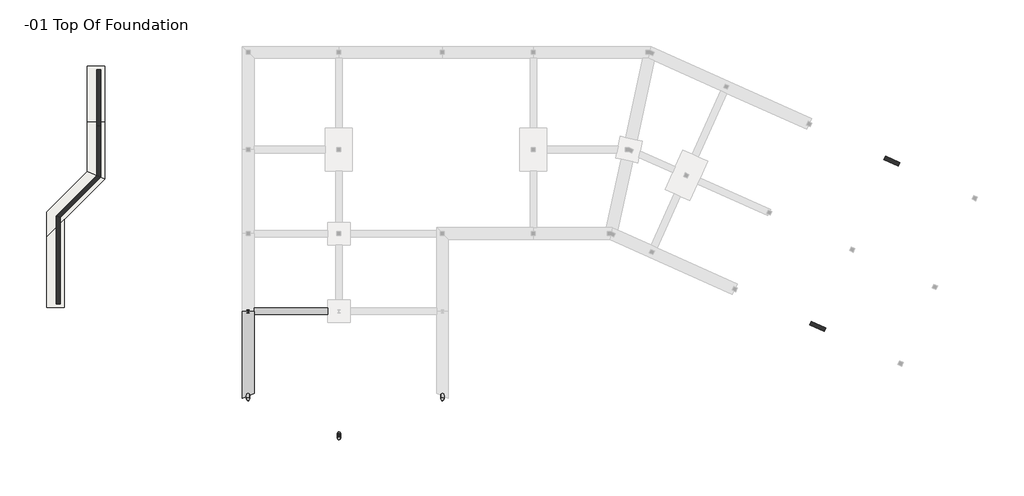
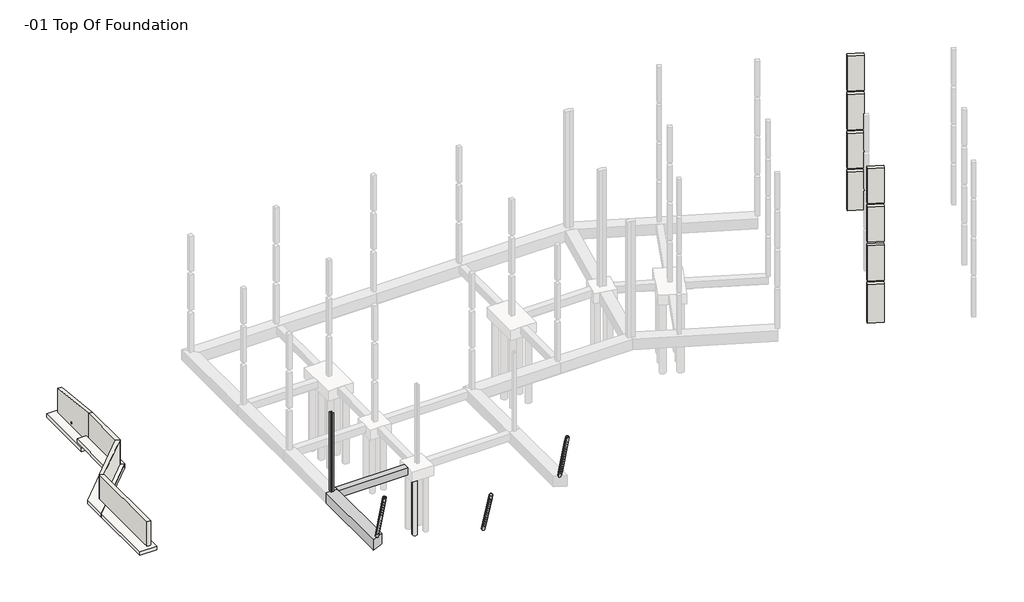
# One storey, part 1 of 4: 6 walls, 4 columns, 4 footings, 2 beams, 1 slab.
"""IFC4 building model written with IfcOpenShell, lengths in millimetres."""

from ifc_helpers import new_model, si_unit, point, frame, frame_2d, origin, place, context, project, spatial, polyline, circle_curve, ellipse_curve, trimmed, segment, composite_curve, outline, extrude, faceted_brep, transform, mapped, element, save
from ifc_brep_helpers import plane_surface, cylinder_surface, revolved_surface, advanced_brep
from components import w_shapes_column_w10x33_60aa4128

model = new_model("IFC4")

# Units and contexts
model_context = context("Model", 3, world=origin())
ifc_project = project(units=[si_unit("LENGTHUNIT", "METRE", prefix="MILLI")], contexts=[model_context])

# Site, building, storey
site = spatial("IfcSite", under=ifc_project)
building = spatial("IfcBuilding", under=site)
storey = spatial("IfcBuildingStorey", under=building, Name="-01 Top Of Foundation", Elevation=-304.8)

# Beams
placement = place(None, origin())
element("IfcBeam", 1, ObjectType="Ring Beam : 12 x 24", at=placement, inside=storey, context=model_context, shape_type="Brep", body=[
    faceted_brep([(457.2, -19748.5, -304.8), (457.2, -20002.5, -304.8), (457.2, -20256.5, -304.8), (6146.8, -20256.5, -304.8), (6146.8, -19748.5, -304.8), (457.2, -19748.5, -889.0), (6146.8, -19748.5, -889.0), (457.2, -19773.9, -914.4), (6146.8, -19773.9, -914.4), (457.2, -20231.1, -914.4), (6146.8, -20231.1, -914.4), (457.2, -20256.5, -889.0), (6146.8, -20256.5, -889.0)], [[[0, 1, 2, 3, 4]], [[5, 0, 4, 6]], [[7, 5, 6, 8]], [[9, 7, 8, 10]], [[11, 9, 10, 12]], [[2, 11, 12, 3]], [[9, 11, 2, 1, 0, 5, 7]], [[4, 3, 12, 10, 8, 6]]]),
])
element("IfcBeam", 2, ObjectType="Ring Beam : 16 x 32", at=placement, inside=storey, context=model_context, shape_type="Brep", body=[
    faceted_brep([(-457.2, -26723.3402351, -304.8), (457.2, -26332.3874204, -304.8), (457.2, -20256.5, -304.8), (457.2, -20002.5, -304.8), (-457.2, -20002.5, -304.8), (-457.2, -26723.3402351, -1193.8), (-457.2, -20002.5, -1193.8), (-431.8, -26712.4804347, -1219.2), (-431.8, -20002.5, -1219.2), (431.8, -26343.2472208, -1219.2), (431.8, -20002.5, -1219.2), (457.2, -26332.3874204, -1193.8), (457.2, -20002.5, -1193.8)], [[[0, 1, 2, 3, 4]], [[5, 0, 4, 6]], [[7, 5, 6, 8]], [[9, 7, 8, 10]], [[11, 9, 10, 12]], [[1, 11, 12, 3, 2]], [[1, 0, 5, 7, 9, 11]], [[3, 12, 10, 8, 6, 4]]]),
])

# Columns
element("IfcColumn", 3, ObjectType="HSS Round-Column : HSS10X.500", at=placement, inside=storey, context=model_context, shape_type="AdvancedBrep", body=[
    advanced_brep(
    [(6883.4, -29416.3085227, -359.2102448), (7137.4, -29416.3085227, -359.2102448), (6896.1, -29416.3085227, -359.2102448), (7124.7, -29416.3085227, -359.2102448), (6883.4, -30549.160265, 3300.5302448), (7137.4, -30549.160265, 3300.5302448), (6896.1, -30549.160265, 3300.5302448), (7124.7, -30549.160265, 3300.5302448)],
    [
        (0, 1, circle_curve(frame((7010.4, -29416.3085227, -359.2102448), z_axis=(0.0, 0.29570157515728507, -0.9552803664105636), x_axis=(1.0, 0.0, 0.0)), 127.0)),
        (1, 0, circle_curve(frame((7010.4, -29416.3085227, -359.2102448), z_axis=(0.0, 0.29570157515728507, -0.9552803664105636), x_axis=(1.0, 0.0, 0.0)), 127.0)),
        (2, 3, circle_curve(frame((7010.4, -29416.3085227, -359.2102448), z_axis=(0.0, -0.29570157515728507, 0.9552803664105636), x_axis=(1.0, 0.0, 0.0)), 114.3)),
        (3, 2, circle_curve(frame((7010.4, -29416.3085227, -359.2102448), z_axis=(0.0, -0.29570157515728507, 0.9552803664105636), x_axis=(1.0, 0.0, 0.0)), 114.3)),
        (4, 5, circle_curve(frame((7010.4, -30549.160265, 3300.5302448), z_axis=(0.0, 0.29570157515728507, -0.9552803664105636), x_axis=(1.0, 0.0, 0.0)), 127.0)),
        (5, 1),
        (0, 4),
        (5, 4, circle_curve(frame((7010.4, -30549.160265, 3300.5302448), z_axis=(0.0, 0.29570157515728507, -0.9552803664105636), x_axis=(1.0, 0.0, 0.0)), 127.0)),
        (6, 7, circle_curve(frame((7010.4, -30549.160265, 3300.5302448), z_axis=(0.0, -0.29570157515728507, 0.9552803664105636), x_axis=(1.0, 0.0, 0.0)), 114.3)),
        (7, 3),
        (2, 6),
        (7, 6, circle_curve(frame((7010.4, -30549.160265, 3300.5302448), z_axis=(0.0, -0.29570157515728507, 0.9552803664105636), x_axis=(1.0, 0.0, 0.0)), 114.3)),
    ],
    [
        plane_surface(frame((7137.4, -29416.3085227, -359.2102448), z_axis=(0.0, 0.295701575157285, -0.9552803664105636), x_axis=(0.0, -0.9552803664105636, -0.295701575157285))),
        cylinder_surface(frame((7010.4, -29416.3085227, -359.2102448), z_axis=(0.0, -0.29570157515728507, 0.9552803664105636), x_axis=(1.0, 0.0, 0.0)), 127.0),
        revolved_surface(polyline([(7124.7, -29416.308522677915, -359.21024479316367), (7124.7, -30549.160264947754, 3300.530244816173)]), (7010.4, -29527.5, 0.0), (0.0, 0.29570157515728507, -0.9552803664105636)),
        plane_surface(frame((7137.4, -30549.160265, 3300.5302448), z_axis=(0.0, -0.295701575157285, 0.9552803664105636), x_axis=(0.0, 0.9552803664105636, 0.295701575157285))),
    ],
    [
        (0, [[1, 2], [3, 4]]),
        (1, [[5, 6, -1, 7]]),
        (1, [[8, -7, -2, -6]]),
        (2, [[9, 10, -3, 11]]),
        (2, [[12, -11, -4, -10]]),
        (3, [[-8, -5], [-12, -9]]),
    ],
),
    advanced_brep(
    [(6883.4, -30549.160265, 3300.5302448), (7137.4, -30549.160265, 3300.5302448), (6896.1, -30549.160265, 3300.5302448), (7124.7, -30549.160265, 3300.5302448), (7137.4, -29527.5, 0.0), (6883.4, -29527.5, 0.0), (7124.7, -29527.5, 0.0), (6896.1, -29527.5, 0.0)],
    [
        (0, 1, circle_curve(frame((7010.4, -30549.160265, 3300.5302448), z_axis=(0.0, -0.29570157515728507, 0.9552803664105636), x_axis=(1.0, 0.0, 0.0)), 127.0)),
        (1, 0, circle_curve(frame((7010.4, -30549.160265, 3300.5302448), z_axis=(0.0, -0.29570157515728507, 0.9552803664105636), x_axis=(1.0, 0.0, 0.0)), 127.0)),
        (2, 3, circle_curve(frame((7010.4, -30549.160265, 3300.5302448), z_axis=(0.0, 0.29570157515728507, -0.9552803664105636), x_axis=(1.0, 0.0, 0.0)), 114.3)),
        (3, 2, circle_curve(frame((7010.4, -30549.160265, 3300.5302448), z_axis=(0.0, 0.29570157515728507, -0.9552803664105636), x_axis=(1.0, 0.0, 0.0)), 114.3)),
        (1, 4),
        (4, 5, ellipse_curve(frame((7010.4, -29527.5, 0.0), z_axis=(0.0, 0.0, 1.0), x_axis=(0.0, -1.0, 0.0)), 132.9452635, 127.0)),
        (5, 0),
        (5, 4, ellipse_curve(frame((7010.4, -29527.5, 0.0), z_axis=(0.0, 0.0, 1.0), x_axis=(0.0, -1.0, 0.0)), 132.9452635, 127.0)),
        (3, 6),
        (6, 7, ellipse_curve(frame((7010.4, -29527.5, 0.0), z_axis=(0.0, 0.0, -1.0), x_axis=(0.0, 1.0, 0.0)), 119.6507371, 114.3)),
        (7, 2),
        (7, 6, ellipse_curve(frame((7010.4, -29527.5, 0.0), z_axis=(0.0, 0.0, -1.0), x_axis=(0.0, 1.0, 0.0)), 119.6507371, 114.3)),
    ],
    [
        plane_surface(frame((7137.4, -30549.160265, 3300.5302448), z_axis=(0.0, -0.295701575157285, 0.9552803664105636), x_axis=(0.0, 0.9552803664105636, 0.295701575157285))),
        cylinder_surface(frame((7010.4, -29416.3085227, -359.2102448), z_axis=(0.0, -0.29570157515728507, 0.9552803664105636), x_axis=(1.0, 0.0, 0.0)), 127.0),
        revolved_surface(polyline([(7124.7, -29517.037808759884, -33.798690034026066), (7124.7, -30549.160264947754, 3300.530244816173)]), (7010.4, -29527.5, 0.0), (0.0, 0.29570157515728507, -0.9552803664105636)),
        plane_surface(frame((7010.4, -29527.5, 0.0), z_axis=(0.0, 0.0, -1.0), x_axis=(1.0, 0.0, 0.0))),
    ],
    [
        (0, [[1, 2], [3, 4]]),
        (1, [[-2, 5, 6, 7]]),
        (1, [[-1, -7, 8, -5]]),
        (2, [[-4, 9, 10, 11]]),
        (2, [[-3, -11, 12, -9]]),
        (3, [[-6, -8], [-10, -12]]),
    ],
),
    advanced_brep(
    [(7137.4, -30437.9687876, 2941.32), (7137.4, -29527.5, 0.0), (6883.4, -29527.5, 0.0), (6883.4, -30437.9687876, 2941.32), (6896.1, -29527.5, 0.0), (7124.7, -29527.5, 0.0), (7124.7, -30437.9687876, 2941.32), (6896.1, -30437.9687876, 2941.32)],
    [
        (0, 1),
        (1, 2, ellipse_curve(frame((7010.4, -29527.5, 0.0), z_axis=(0.0, 0.0, 1.0), x_axis=(0.0, -1.0, 0.0)), 132.9452635, 127.0)),
        (2, 3),
        (3, 0, ellipse_curve(frame((7010.4, -30437.9687876, 2941.32), z_axis=(0.0, 0.0, -1.0), x_axis=(0.0, -1.0, 0.0)), 132.9452635, 127.0)),
        (2, 1, ellipse_curve(frame((7010.4, -29527.5, 0.0), z_axis=(0.0, 0.0, 1.0), x_axis=(0.0, -1.0, 0.0)), 132.9452635, 127.0)),
        (0, 3, ellipse_curve(frame((7010.4, -30437.9687876, 2941.32), z_axis=(0.0, 0.0, -1.0), x_axis=(0.0, -1.0, 0.0)), 132.9452635, 127.0)),
        (4, 5, ellipse_curve(frame((7010.4, -29527.5, 0.0), z_axis=(0.0, 0.0, 1.0), x_axis=(0.0, 1.0, 0.0)), 119.6507371, 114.3)),
        (5, 4, ellipse_curve(frame((7010.4, -29527.5, 0.0), z_axis=(0.0, 0.0, 1.0), x_axis=(0.0, 1.0, 0.0)), 119.6507371, 114.3)),
        (6, 5),
        (4, 7),
        (7, 6, ellipse_curve(frame((7010.4, -30437.9687876, 2941.32), z_axis=(0.0, 0.0, 1.0), x_axis=(0.0, 1.0, 0.0)), 119.6507371, 114.3)),
        (6, 7, ellipse_curve(frame((7010.4, -30437.9687876, 2941.32), z_axis=(0.0, 0.0, 1.0), x_axis=(0.0, 1.0, 0.0)), 119.6507371, 114.3)),
    ],
    [
        cylinder_surface(frame((7010.4, -29416.3085227, -359.2102448), z_axis=(0.0, -0.29570157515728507, 0.9552803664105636), x_axis=(1.0, 0.0, 0.0)), 127.0),
        plane_surface(frame((7010.4, -29527.5, 0.0), z_axis=(0.0, 0.0, -1.0), x_axis=(1.0, 0.0, 0.0))),
        revolved_surface(polyline([(7124.7, -29517.037808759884, -33.798690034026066), (7124.7, -30448.43097885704, 2975.1186900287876)]), (7010.4, -29527.5, 0.0), (0.0, 0.29570157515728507, -0.9552803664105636)),
        plane_surface(frame((7010.4, -30441.9, 2941.32), z_axis=(0.0, 0.0, 1.0), x_axis=(-1.0, 0.0, 0.0))),
    ],
    [
        (0, [[1, 2, 3, 4]]),
        (0, [[-3, 5, -1, 6]]),
        (1, [[-2, -5], [7, 8]]),
        (2, [[9, -7, 10, 11]]),
        (2, [[-10, -8, -9, 12]]),
        (3, [[-4, -6], [-11, -12]]),
    ],
),
])
element("IfcColumn", 4, ObjectType="HSS Round-Column : HSS10X.500", at=placement, inside=storey, context=model_context, shape_type="AdvancedBrep", body=[
    advanced_brep(
    [(-127.0, -26432.3335696, -359.2102448), (127.0, -26432.3335696, -359.2102448), (-114.3, -26432.3335696, -359.2102448), (114.3, -26432.3335696, -359.2102448), (-127.0, -27542.6664304, 3712.0102448), (127.0, -27542.6664304, 3712.0102448), (-114.3, -27542.6664304, 3712.0102448), (114.3, -27542.6664304, 3712.0102448)],
    [
        (0, 1, circle_curve(frame((0.0, -26432.3335696, -359.2102448), z_axis=(0.0, 0.26311740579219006, -0.9647638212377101), x_axis=(1.0000000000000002, 0.0, 0.0)), 127.0)),
        (1, 0, circle_curve(frame((0.0, -26432.3335696, -359.2102448), z_axis=(0.0, 0.26311740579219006, -0.9647638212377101), x_axis=(1.0000000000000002, 0.0, 0.0)), 127.0)),
        (2, 3, circle_curve(frame((0.0, -26432.3335696, -359.2102448), z_axis=(0.0, -0.26311740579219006, 0.9647638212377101), x_axis=(1.0000000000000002, 0.0, 0.0)), 114.3)),
        (3, 2, circle_curve(frame((0.0, -26432.3335696, -359.2102448), z_axis=(0.0, -0.26311740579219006, 0.9647638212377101), x_axis=(1.0000000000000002, 0.0, 0.0)), 114.3)),
        (4, 5, circle_curve(frame((0.0, -27542.6664304, 3712.0102448), z_axis=(0.0, 0.26311740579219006, -0.9647638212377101), x_axis=(1.0000000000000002, 0.0, 0.0)), 127.0)),
        (5, 1),
        (0, 4),
        (5, 4, circle_curve(frame((0.0, -27542.6664304, 3712.0102448), z_axis=(0.0, 0.26311740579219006, -0.9647638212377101), x_axis=(1.0000000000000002, 0.0, 0.0)), 127.0)),
        (6, 7, circle_curve(frame((0.0, -27542.6664304, 3712.0102448), z_axis=(0.0, -0.26311740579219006, 0.9647638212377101), x_axis=(1.0000000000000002, 0.0, 0.0)), 114.3)),
        (7, 3),
        (2, 6),
        (7, 6, circle_curve(frame((0.0, -27542.6664304, 3712.0102448), z_axis=(0.0, -0.26311740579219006, 0.9647638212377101), x_axis=(1.0000000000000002, 0.0, 0.0)), 114.3)),
    ],
    [
        plane_surface(frame((127.0, -26432.3335696, -359.2102448), z_axis=(0.0, 0.26311740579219, -0.96476382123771), x_axis=(0.0, -0.96476382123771, -0.26311740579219))),
        cylinder_surface(frame((0.0, -26432.3335696, -359.2102448), z_axis=(0.0, -0.26311740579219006, 0.9647638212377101), x_axis=(1.0000000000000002, 0.0, 0.0)), 127.0),
        revolved_surface(polyline([(114.30000000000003, -26432.33356959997, -359.21024479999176), (114.30000000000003, -27542.666430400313, 3712.0102447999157)]), (0.0, -26530.3, 0.0), (0.0, 0.26311740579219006, -0.9647638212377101)),
        plane_surface(frame((127.0, -27542.6664304, 3712.0102448), z_axis=(0.0, -0.26311740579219, 0.96476382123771), x_axis=(0.0, 0.96476382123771, 0.26311740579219))),
    ],
    [
        (0, [[1, 2], [3, 4]]),
        (1, [[5, 6, -1, 7]]),
        (1, [[8, -7, -2, -6]]),
        (2, [[9, 10, -3, 11]]),
        (2, [[12, -11, -4, -10]]),
        (3, [[-8, -5], [-12, -9]]),
    ],
),
    advanced_brep(
    [(-127.0, -27542.6664304, 3712.0102448), (127.0, -27542.6664304, 3712.0102448), (-114.3, -27542.6664304, 3712.0102448), (114.3, -27542.6664304, 3712.0102448), (127.0, -26530.3, 0.0), (-127.0, -26530.3, 0.0), (114.3, -26530.3, 0.0), (-114.3, -26530.3, 0.0)],
    [
        (0, 1, circle_curve(frame((0.0, -27542.6664304, 3712.0102448), z_axis=(0.0, -0.26311740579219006, 0.9647638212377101), x_axis=(1.0000000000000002, 0.0, 0.0)), 127.0)),
        (1, 0, circle_curve(frame((0.0, -27542.6664304, 3712.0102448), z_axis=(0.0, -0.26311740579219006, 0.9647638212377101), x_axis=(1.0000000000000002, 0.0, 0.0)), 127.0)),
        (2, 3, circle_curve(frame((0.0, -27542.6664304, 3712.0102448), z_axis=(0.0, 0.26311740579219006, -0.9647638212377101), x_axis=(1.0000000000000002, 0.0, 0.0)), 114.3)),
        (3, 2, circle_curve(frame((0.0, -27542.6664304, 3712.0102448), z_axis=(0.0, 0.26311740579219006, -0.9647638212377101), x_axis=(1.0000000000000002, 0.0, 0.0)), 114.3)),
        (1, 4),
        (4, 5, ellipse_curve(frame((0.0, -26530.3, 0.0), z_axis=(0.0, 0.0, 1.0), x_axis=(0.0, -1.0, 0.0)), 131.6384354, 127.0)),
        (5, 0),
        (5, 4, ellipse_curve(frame((0.0, -26530.3, 0.0), z_axis=(0.0, 0.0, 1.0), x_axis=(0.0, -1.0, 0.0)), 131.6384354, 127.0)),
        (3, 6),
        (6, 7, ellipse_curve(frame((0.0, -26530.3, 0.0), z_axis=(0.0, 0.0, -1.0), x_axis=(0.0, 1.0, 0.0)), 118.4745919, 114.3)),
        (7, 2),
        (7, 6, ellipse_curve(frame((0.0, -26530.3, 0.0), z_axis=(0.0, 0.0, -1.0), x_axis=(0.0, 1.0, 0.0)), 118.4745919, 114.3)),
    ],
    [
        plane_surface(frame((127.0, -27542.6664304, 3712.0102448), z_axis=(0.0, -0.26311740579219, 0.96476382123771), x_axis=(0.0, 0.96476382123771, 0.26311740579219))),
        cylinder_surface(frame((0.0, -26432.3335696, -359.2102448), z_axis=(0.0, -0.26311740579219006, 0.9647638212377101), x_axis=(1.0000000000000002, 0.0, 0.0)), 127.0),
        revolved_surface(polyline([(114.30000000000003, -26522.097912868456, -30.074319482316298), (114.30000000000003, -27542.666430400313, 3712.0102447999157)]), (0.0, -26530.3, 0.0), (0.0, 0.26311740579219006, -0.9647638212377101)),
        plane_surface(frame((0.0, -26530.3, 0.0), z_axis=(0.0, 0.0, -1.0), x_axis=(1.0, 0.0, 0.0))),
    ],
    [
        (0, [[1, 2], [3, 4]]),
        (1, [[-2, 5, 6, 7]]),
        (1, [[-1, -7, 8, -5]]),
        (2, [[-4, 9, 10, 11]]),
        (2, [[-3, -11, 12, -9]]),
        (3, [[-6, -8], [-10, -12]]),
    ],
),
    advanced_brep(
    [(127.0, -27444.7, 3352.8), (127.0, -26530.3, 0.0), (-127.0, -26530.3, 0.0), (-127.0, -27444.7, 3352.8), (-114.3, -26530.3, 0.0), (114.3, -26530.3, 0.0), (114.3, -27444.7, 3352.8), (-114.3, -27444.7, 3352.8)],
    [
        (0, 1),
        (1, 2, ellipse_curve(frame((0.0, -26530.3, 0.0), z_axis=(0.0, 0.0, 1.0), x_axis=(0.0, -1.0, 0.0)), 131.6384354, 127.0)),
        (2, 3),
        (3, 0, ellipse_curve(frame((0.0, -27444.7, 3352.8), z_axis=(0.0, 0.0, -1.0), x_axis=(0.0, -1.0, 0.0)), 131.6384354, 127.0)),
        (2, 1, ellipse_curve(frame((0.0, -26530.3, 0.0), z_axis=(0.0, 0.0, 1.0), x_axis=(0.0, -1.0, 0.0)), 131.6384354, 127.0)),
        (0, 3, ellipse_curve(frame((0.0, -27444.7, 3352.8), z_axis=(0.0, 0.0, -1.0), x_axis=(0.0, -1.0, 0.0)), 131.6384354, 127.0)),
        (4, 5, ellipse_curve(frame((0.0, -26530.3, 0.0), z_axis=(0.0, 0.0, 1.0), x_axis=(0.0, 1.0, 0.0)), 118.4745919, 114.3)),
        (5, 4, ellipse_curve(frame((0.0, -26530.3, 0.0), z_axis=(0.0, 0.0, 1.0), x_axis=(0.0, 1.0, 0.0)), 118.4745919, 114.3)),
        (6, 5),
        (4, 7),
        (7, 6, ellipse_curve(frame((0.0, -27444.7, 3352.8), z_axis=(0.0, 0.0, 1.0), x_axis=(0.0, 1.0, 0.0)), 118.4745919, 114.3)),
        (6, 7, ellipse_curve(frame((0.0, -27444.7, 3352.8), z_axis=(0.0, 0.0, 1.0), x_axis=(0.0, 1.0, 0.0)), 118.4745919, 114.3)),
    ],
    [
        cylinder_surface(frame((0.0, -26432.3335696, -359.2102448), z_axis=(0.0, -0.26311740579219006, 0.9647638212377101), x_axis=(1.0000000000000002, 0.0, 0.0)), 127.0),
        plane_surface(frame((0.0, -26530.3, 0.0), z_axis=(0.0, 0.0, -1.0), x_axis=(1.0, 0.0, 0.0))),
        revolved_surface(polyline([(114.30000000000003, -26522.097912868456, -30.074319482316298), (114.30000000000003, -27452.902087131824, 3382.8743194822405)]), (0.0, -26530.3, 0.0), (0.0, 0.26311740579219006, -0.9647638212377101)),
        plane_surface(frame((0.0, -27444.7, 3352.8), z_axis=(0.0, 0.0, 1.0), x_axis=(-1.0, 0.0, 0.0))),
    ],
    [
        (0, [[1, 2, 3, 4]]),
        (0, [[-3, 5, -1, 6]]),
        (1, [[-2, -5], [7, 8]]),
        (2, [[9, -7, 10, 11]]),
        (2, [[-10, -8, -9, 12]]),
        (3, [[-4, -6], [-11, -12]]),
    ],
),
])
element("IfcColumn", 5, ObjectType="HSS Round-Column : HSS10X.500", at=placement, inside=storey, context=model_context, shape_type="AdvancedBrep", body=[
    advanced_brep(
    [(14871.7, -26432.3335696, -359.2102448), (15125.7, -26432.3335696, -359.2102448), (14884.4, -26432.3335696, -359.2102448), (15113.0, -26432.3335696, -359.2102448), (14871.7, -27542.6664304, 3712.0102448), (15125.7, -27542.6664304, 3712.0102448), (14884.4, -27542.6664304, 3712.0102448), (15113.0, -27542.6664304, 3712.0102448)],
    [
        (0, 1, circle_curve(frame((14998.7, -26432.3335696, -359.2102448), z_axis=(0.0, 0.26311740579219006, -0.9647638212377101), x_axis=(1.0000000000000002, 0.0, 0.0)), 127.0)),
        (1, 0, circle_curve(frame((14998.7, -26432.3335696, -359.2102448), z_axis=(0.0, 0.26311740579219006, -0.9647638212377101), x_axis=(1.0000000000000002, 0.0, 0.0)), 127.0)),
        (2, 3, circle_curve(frame((14998.7, -26432.3335696, -359.2102448), z_axis=(0.0, -0.26311740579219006, 0.9647638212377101), x_axis=(1.0000000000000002, 0.0, 0.0)), 114.3)),
        (3, 2, circle_curve(frame((14998.7, -26432.3335696, -359.2102448), z_axis=(0.0, -0.26311740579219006, 0.9647638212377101), x_axis=(1.0000000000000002, 0.0, 0.0)), 114.3)),
        (4, 5, circle_curve(frame((14998.7, -27542.6664304, 3712.0102448), z_axis=(0.0, 0.26311740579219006, -0.9647638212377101), x_axis=(1.0000000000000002, 0.0, 0.0)), 127.0)),
        (5, 1),
        (0, 4),
        (5, 4, circle_curve(frame((14998.7, -27542.6664304, 3712.0102448), z_axis=(0.0, 0.26311740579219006, -0.9647638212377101), x_axis=(1.0000000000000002, 0.0, 0.0)), 127.0)),
        (6, 7, circle_curve(frame((14998.7, -27542.6664304, 3712.0102448), z_axis=(0.0, -0.26311740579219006, 0.9647638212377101), x_axis=(1.0000000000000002, 0.0, 0.0)), 114.3)),
        (7, 3),
        (2, 6),
        (7, 6, circle_curve(frame((14998.7, -27542.6664304, 3712.0102448), z_axis=(0.0, -0.26311740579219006, 0.9647638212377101), x_axis=(1.0000000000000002, 0.0, 0.0)), 114.3)),
    ],
    [
        plane_surface(frame((15125.7, -26432.3335696, -359.2102448), z_axis=(0.0, 0.26311740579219, -0.96476382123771), x_axis=(0.0, -0.96476382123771, -0.26311740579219))),
        cylinder_surface(frame((14998.7, -26432.3335696, -359.2102448), z_axis=(0.0, -0.26311740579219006, 0.9647638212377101), x_axis=(1.0000000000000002, 0.0, 0.0)), 127.0),
        revolved_surface(polyline([(15113.0, -26432.33356959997, -359.21024479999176), (15113.0, -27542.666430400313, 3712.0102447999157)]), (14998.7, -26530.3, 0.0), (0.0, 0.26311740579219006, -0.9647638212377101)),
        plane_surface(frame((15125.7, -27542.6664304, 3712.0102448), z_axis=(0.0, -0.26311740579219, 0.96476382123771), x_axis=(0.0, 0.96476382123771, 0.26311740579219))),
    ],
    [
        (0, [[1, 2], [3, 4]]),
        (1, [[5, 6, -1, 7]]),
        (1, [[8, -7, -2, -6]]),
        (2, [[9, 10, -3, 11]]),
        (2, [[12, -11, -4, -10]]),
        (3, [[-8, -5], [-12, -9]]),
    ],
),
    advanced_brep(
    [(14871.7, -27542.6664304, 3712.0102448), (15125.7, -27542.6664304, 3712.0102448), (14884.4, -27542.6664304, 3712.0102448), (15113.0, -27542.6664304, 3712.0102448), (15125.7, -26530.3, 0.0), (14871.7, -26530.3, 0.0), (15113.0, -26530.3, 0.0), (14884.4, -26530.3, 0.0)],
    [
        (0, 1, circle_curve(frame((14998.7, -27542.6664304, 3712.0102448), z_axis=(0.0, -0.26311740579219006, 0.9647638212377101), x_axis=(1.0000000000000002, 0.0, 0.0)), 127.0)),
        (1, 0, circle_curve(frame((14998.7, -27542.6664304, 3712.0102448), z_axis=(0.0, -0.26311740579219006, 0.9647638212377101), x_axis=(1.0000000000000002, 0.0, 0.0)), 127.0)),
        (2, 3, circle_curve(frame((14998.7, -27542.6664304, 3712.0102448), z_axis=(0.0, 0.26311740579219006, -0.9647638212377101), x_axis=(1.0000000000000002, 0.0, 0.0)), 114.3)),
        (3, 2, circle_curve(frame((14998.7, -27542.6664304, 3712.0102448), z_axis=(0.0, 0.26311740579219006, -0.9647638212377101), x_axis=(1.0000000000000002, 0.0, 0.0)), 114.3)),
        (1, 4),
        (4, 5, ellipse_curve(frame((14998.7, -26530.3, 0.0), z_axis=(0.0, 0.0, 1.0), x_axis=(0.0, -1.0, 0.0)), 131.6384354, 127.0)),
        (5, 0),
        (5, 4, ellipse_curve(frame((14998.7, -26530.3, 0.0), z_axis=(0.0, 0.0, 1.0), x_axis=(0.0, -1.0, 0.0)), 131.6384354, 127.0)),
        (3, 6),
        (6, 7, ellipse_curve(frame((14998.7, -26530.3, 0.0), z_axis=(0.0, 0.0, -1.0), x_axis=(0.0, 1.0, 0.0)), 118.4745919, 114.3)),
        (7, 2),
        (7, 6, ellipse_curve(frame((14998.7, -26530.3, 0.0), z_axis=(0.0, 0.0, -1.0), x_axis=(0.0, 1.0, 0.0)), 118.4745919, 114.3)),
    ],
    [
        plane_surface(frame((15125.7, -27542.6664304, 3712.0102448), z_axis=(0.0, -0.26311740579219, 0.96476382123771), x_axis=(0.0, 0.96476382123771, 0.26311740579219))),
        cylinder_surface(frame((14998.7, -26432.3335696, -359.2102448), z_axis=(0.0, -0.26311740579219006, 0.9647638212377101), x_axis=(1.0000000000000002, 0.0, 0.0)), 127.0),
        revolved_surface(polyline([(15113.0, -26522.097912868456, -30.074319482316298), (15113.0, -27542.666430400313, 3712.0102447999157)]), (14998.7, -26530.3, 0.0), (0.0, 0.26311740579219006, -0.9647638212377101)),
        plane_surface(frame((14998.7, -26530.3, 0.0), z_axis=(0.0, 0.0, -1.0), x_axis=(1.0, 0.0, 0.0))),
    ],
    [
        (0, [[1, 2], [3, 4]]),
        (1, [[-2, 5, 6, 7]]),
        (1, [[-1, -7, 8, -5]]),
        (2, [[-4, 9, 10, 11]]),
        (2, [[-3, -11, 12, -9]]),
        (3, [[-6, -8], [-10, -12]]),
    ],
),
    advanced_brep(
    [(15125.7, -27444.7, 3352.8), (15125.7, -26530.3, 0.0), (14871.7, -26530.3, 0.0), (14871.7, -27444.7, 3352.8), (14884.4, -26530.3, 0.0), (15113.0, -26530.3, 0.0), (15113.0, -27444.7, 3352.8), (14884.4, -27444.7, 3352.8)],
    [
        (0, 1),
        (1, 2, ellipse_curve(frame((14998.7, -26530.3, 0.0), z_axis=(0.0, 0.0, 1.0), x_axis=(0.0, -1.0, 0.0)), 131.6384354, 127.0)),
        (2, 3),
        (3, 0, ellipse_curve(frame((14998.7, -27444.7, 3352.8), z_axis=(0.0, 0.0, -1.0), x_axis=(0.0, -1.0, 0.0)), 131.6384354, 127.0)),
        (2, 1, ellipse_curve(frame((14998.7, -26530.3, 0.0), z_axis=(0.0, 0.0, 1.0), x_axis=(0.0, -1.0, 0.0)), 131.6384354, 127.0)),
        (0, 3, ellipse_curve(frame((14998.7, -27444.7, 3352.8), z_axis=(0.0, 0.0, -1.0), x_axis=(0.0, -1.0, 0.0)), 131.6384354, 127.0)),
        (4, 5, ellipse_curve(frame((14998.7, -26530.3, 0.0), z_axis=(0.0, 0.0, 1.0), x_axis=(0.0, 1.0, 0.0)), 118.4745919, 114.3)),
        (5, 4, ellipse_curve(frame((14998.7, -26530.3, 0.0), z_axis=(0.0, 0.0, 1.0), x_axis=(0.0, 1.0, 0.0)), 118.4745919, 114.3)),
        (6, 5),
        (4, 7),
        (7, 6, ellipse_curve(frame((14998.7, -27444.7, 3352.8), z_axis=(0.0, 0.0, 1.0), x_axis=(0.0, 1.0, 0.0)), 118.4745919, 114.3)),
        (6, 7, ellipse_curve(frame((14998.7, -27444.7, 3352.8), z_axis=(0.0, 0.0, 1.0), x_axis=(0.0, 1.0, 0.0)), 118.4745919, 114.3)),
    ],
    [
        cylinder_surface(frame((14998.7, -26432.3335696, -359.2102448), z_axis=(0.0, -0.26311740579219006, 0.9647638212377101), x_axis=(1.0000000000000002, 0.0, 0.0)), 127.0),
        plane_surface(frame((14998.7, -26530.3, 0.0), z_axis=(0.0, 0.0, -1.0), x_axis=(1.0, 0.0, 0.0))),
        revolved_surface(polyline([(15113.0, -26522.097912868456, -30.074319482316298), (15113.0, -27452.902087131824, 3382.8743194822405)]), (14998.7, -26530.3, 0.0), (0.0, 0.26311740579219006, -0.9647638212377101)),
        plane_surface(frame((14998.7, -27444.7, 3352.8), z_axis=(0.0, 0.0, 1.0), x_axis=(-1.0, 0.0, 0.0))),
    ],
    [
        (0, [[1, 2, 3, 4]]),
        (0, [[-3, 5, -1, 6]]),
        (1, [[-2, -5], [7, 8]]),
        (2, [[9, -7, 10, 11]]),
        (2, [[-10, -8, -9, 12]]),
        (3, [[-4, -6], [-11, -12]]),
    ],
),
])
w_shapes_column_w10x33_shape = w_shapes_column_w10x33_60aa4128(model_context)
element("IfcColumn", 6, ObjectType="W Shapes-Column : W10X33", at=placement, inside=storey, context=model_context, shape_type="MappedRepresentation", body=[
    mapped(w_shapes_column_w10x33_shape, transform((0.0, -20002.5, 0.0), x_axis=(1.0, 0.0, 0.0), y_axis=(0.0, 1.0, 0.0), z_axis=(0.0, 0.0, 1.0))),
])

# Footings
element("IfcFooting", 7, ObjectType="Bearing Footing - 36\" x 12\"", at=placement, inside=storey, context=model_context, shape_type="SweptSolid", body=[
    extrude(outline(polyline([(-12427.9493295, -1047.6002614), (-11056.3493295, -1047.6002614), (-11056.3493295, -6001.5293915), (-12427.9493295, -6001.5293915), (-12427.9493295, -1047.6002614)])), frame((0.0, 0.0, -1066.8), z_axis=(0.0, 0.0, 1.0), x_axis=(1.0, 0.0, 0.0)), (0.0, 0.0, 1.0), 304.8),
])
element("IfcFooting", 8, ObjectType="Bearing Footing - 36\" x 12\"", at=placement, inside=storey, context=model_context, shape_type="Brep", body=[
    faceted_brep([(-12427.9493295, -9203.24338, -304.8), (-15553.0784596, -12328.3725101, -304.8), (-15553.0784596, -14268.1078323, -304.8), (-14181.4784596, -12896.5078323, -304.8), (-11056.3493295, -9771.3787021, -304.8), (-11056.3493295, -9771.3787021, -609.6), (-15553.0784596, -14268.1078323, -609.6), (-14181.4784596, -12896.5078323, -609.6), (-12427.9493295, -9203.24338, -609.6), (-15553.0784596, -12328.3725101, -609.6)], [[[0, 1, 2, 3, 4]], [[5, 4, 3, 2, 6, 7]], [[8, 5, 7, 6, 9]], [[0, 8, 9, 1]], [[2, 1, 9, 6]], [[0, 4, 5, 8]]]),
])
element("IfcFooting", 9, ObjectType="Bearing Footing - 36\" x 12\"", at=placement, inside=storey, context=model_context, shape_type="SweptSolid", body=[
    extrude(outline(polyline([(-14181.4784596, -19717.5293915), (-15553.0784596, -19717.5293915), (-15553.0784596, -14268.1078323), (-14181.4784596, -12896.5078323), (-14181.4784596, -19717.5293915)])), frame((0.0, 0.0, -609.6), z_axis=(0.0, 0.0, 1.0), x_axis=(1.0, 0.0, 0.0)), (0.0, 0.0, 1.0), 304.8),
])
element("IfcFooting", 10, ObjectType="Bearing Footing - 36\" x 12\"", at=placement, inside=storey, context=model_context, shape_type="SweptSolid", body=[
    extrude(outline(polyline([(-11056.3493295, -5391.9293915), (-11056.3493295, -9771.3787021), (-12427.9493295, -9203.24338), (-12427.9493295, -5391.9293915), (-11665.9493295, -5391.9293915), (-11665.9493295, -5696.7293915), (-11361.1493295, -5696.7293915), (-11361.1493295, -5391.9293915), (-11056.3493295, -5391.9293915)])), frame((0.0, 0.0, -609.6), z_axis=(0.0, 0.0, 1.0), x_axis=(1.0, 0.0, 0.0)), (0.0, 0.0, 1.0), 304.8),
])

# Slab
element("IfcSlab", 11, ObjectType="Round In Situ Concrete Pile : 16\" Diameter 16'", at=placement, inside=storey, context=model_context, shape_type="SweptSolid", body=[
    extrude(outline(composite_curve([segment(trimmed(circle_curve(frame_2d((6553.2, -20459.7)), 203.2), [point((6350.0, -20459.7))], [point((6756.4, -20459.7))], False, "CARTESIAN"), True, "CONTINUOUS"), segment(trimmed(circle_curve(frame_2d((6553.2, -20459.7)), 203.2), [point((6756.4, -20459.7))], [point((6350.0, -20459.7))], False, "CARTESIAN"), True, "CONTINUOUS")], self_intersect=False)), frame((0.0, 0.0, -6070.6), z_axis=(0.0, 0.0, 1.0), x_axis=(1.0, 0.0, 0.0)), (0.0, 0.0, 1.0), 4876.8),
])

# Walls
element("IfcWall", 12, ObjectType="RC Wall 12\"", at=placement, inside=storey, context=model_context, shape_type="AdvancedBrep", body=[
    advanced_brep(
    [(-11665.9493295, -1352.4002614, -762.0), (-11665.9493295, -5696.7293915, -762.0), (-11665.9493295, -5696.7293915, -304.8), (-11665.9493295, -5696.7293915, 1828.8), (-11665.9493295, -1352.4002614, 1372.192609), (-11665.9493295, -3334.5293915, -457.2), (-11665.9493295, -3182.1293915, -457.2), (-11361.1493295, -1352.4002614, -762.0), (-11361.1493295, -1352.4002614, 1372.192609), (-11361.1493295, -5696.7293915, 1828.8), (-11361.1493295, -5696.7293915, -304.8), (-11361.1493295, -5696.7293915, -762.0), (-11361.1493295, -3334.5293915, -457.2), (-11361.1493295, -3182.1293915, -457.2)],
    [
        (0, 1),
        (1, 2),
        (2, 3),
        (3, 4),
        (4, 0),
        (5, 6, circle_curve(frame((-11665.9493295, -3258.3293915, -457.2), z_axis=(1.0, 0.0, 0.0), x_axis=(0.0, 1.0, 0.0)), 76.2)),
        (6, 5, circle_curve(frame((-11665.9493295, -3258.3293915, -457.2), z_axis=(1.0, 0.0, 0.0), x_axis=(0.0, 1.0, 0.0)), 76.2)),
        (7, 8),
        (8, 9),
        (9, 10),
        (10, 11),
        (11, 7),
        (12, 13, circle_curve(frame((-11361.1493295, -3258.3293915, -457.2), z_axis=(-1.0, 0.0, 0.0), x_axis=(0.0, 1.0, 0.0)), 76.2)),
        (13, 12, circle_curve(frame((-11361.1493295, -3258.3293915, -457.2), z_axis=(-1.0, 0.0, 0.0), x_axis=(0.0, 1.0, 0.0)), 76.2)),
        (0, 7),
        (11, 1),
        (9, 3),
        (4, 8),
        (5, 12),
        (13, 6),
    ],
    [
        plane_surface(frame((-11665.9493295, -1352.4002614, -762.0), z_axis=(-1.0, 0.0, 0.0), x_axis=(0.0, -1.0, 0.0))),
        plane_surface(frame((-11361.1493295, -1352.4002614, -762.0), z_axis=(1.0, 0.0, 0.0), x_axis=(0.0, 1.0, 0.0))),
        plane_surface(frame((-11665.9493295, -1352.4002614, -762.0), z_axis=(0.0, 0.0, -1.0), x_axis=(1.0, 0.0, 0.0))),
        plane_surface(frame((-11665.9493295, -5696.7293915, -762.0), z_axis=(0.0, -1.0, 0.0), x_axis=(1.0, 0.0, 0.0))),
        plane_surface(frame((-11665.9493295, -1352.4002614, 1372.192609), z_axis=(0.0, 1.0, 0.0), x_axis=(1.0, 0.0, 0.0))),
        plane_surface(frame((-11665.9493295, -5696.7293915, 1828.8), z_axis=(0.0, 0.10452846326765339, 0.9945218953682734), x_axis=(1.0, 0.0, 0.0))),
        revolved_surface(polyline([(-11361.1493295, -3182.1293915, -457.2), (-11665.9493295, -3182.1293915, -457.2)]), (-11513.5493295, -3258.3293915, -457.2), (1.0, 0.0, 0.0)),
    ],
    [
        (0, [[1, 2, 3, 4, 5], [6, 7]]),
        (1, [[8, 9, 10, 11, 12], [13, 14]]),
        (2, [[-1, 15, -12, 16]]),
        (3, [[-3, -2, -16, -11, -10, 17]]),
        (4, [[-5, 18, -8, -15]]),
        (5, [[-4, -17, -9, -18]]),
        (6, [[-6, 19, -14, 20]]),
        (6, [[-7, -20, -13, -19]]),
    ],
),
])
element("IfcWall", 13, ObjectType="RC Wall 12\"", at=placement, inside=storey, context=model_context, shape_type="SweptSolid", body=[
    extrude(outline(polyline([(-14791.0784596, -12644.0032446), (-11665.9493295, -9518.8741145), (-11361.1493295, -9645.1264083), (-14486.2784596, -12770.2555384), (-14791.0784596, -12644.0032446)])), frame((0.0, 0.0, -304.8), z_axis=(0.0, 0.0, 1.0), x_axis=(1.0, 0.0, 0.0)), (0.0, 0.0, 1.0), 2133.6),
])
element("IfcWall", 14, ObjectType="RC Wall 12\"", at=placement, inside=storey, context=model_context, shape_type="SweptSolid", body=[
    extrude(outline(polyline([(-14791.0784596, -19412.7293915), (-14791.0784596, -12644.0032446), (-14486.2784596, -12770.2555384), (-14486.2784596, -19412.7293915), (-14791.0784596, -19412.7293915)])), frame((0.0, 0.0, -304.8), z_axis=(0.0, 0.0, 1.0), x_axis=(1.0, 0.0, 0.0)), (0.0, 0.0, 1.0), 2133.6),
])
element("IfcWall", 15, ObjectType="RC Wall 12\"", at=placement, inside=storey, context=model_context, shape_type="Brep", body=[
    faceted_brep([(44446.1024327, -21549.2360976, 13106.4), (43333.95414, -21049.6614634, 13106.4), (43333.95414, -21049.6614634, 10058.4), (44446.1024327, -21549.2360976, 10058.4), (43458.8477985, -20771.6243902, 13106.4), (44570.9960912, -21271.1990244, 13106.4), (44570.9960912, -21271.1990244, 10058.4), (43458.8477985, -20771.6243902, 10058.4)], [[[0, 1, 2, 3]], [[4, 5, 6, 7]], [[5, 0, 3, 6]], [[1, 4, 7, 2]], [[1, 0, 5, 4]], [[3, 2, 7, 6]]]),
    faceted_brep([(44446.1024327, -21549.2360976, 9753.6), (43333.95414, -21049.6614634, 9753.6), (43333.95414, -21049.6614634, 6705.6), (44446.1024327, -21549.2360976, 6705.6), (43458.8477985, -20771.6243902, 9753.6), (44570.9960912, -21271.1990244, 9753.6), (44570.9960912, -21271.1990244, 6705.6), (43458.8477985, -20771.6243902, 6705.6)], [[[0, 1, 2, 3]], [[4, 5, 6, 7]], [[5, 0, 3, 6]], [[1, 4, 7, 2]], [[1, 0, 5, 4]], [[3, 2, 7, 6]]]),
    faceted_brep([(44446.1024327, -21549.2360976, 6400.8), (43333.95414, -21049.6614634, 6400.8), (43333.95414, -21049.6614634, 3352.8), (44446.1024327, -21549.2360976, 3352.8), (43458.8477985, -20771.6243902, 6400.8), (44570.9960912, -21271.1990244, 6400.8), (44570.9960912, -21271.1990244, 3352.8), (43458.8477985, -20771.6243902, 3352.8)], [[[0, 1, 2, 3]], [[4, 5, 6, 7]], [[5, 0, 3, 6]], [[1, 4, 7, 2]], [[1, 0, 5, 4]], [[3, 2, 7, 6]]]),
    faceted_brep([(43333.95414, -21049.6614634, -304.8), (44446.1024327, -21549.2360976, -304.8), (44446.1024327, -21549.2360976, 0.0), (44446.1024327, -21549.2360976, 3048.0), (43333.95414, -21049.6614634, 3048.0), (43333.95414, -21049.6614634, 0.0), (44570.9960912, -21271.1990244, -304.8), (43458.8477985, -20771.6243902, -304.8), (43458.8477985, -20771.6243902, 0.0), (43458.8477985, -20771.6243902, 3048.0), (44570.9960912, -21271.1990244, 3048.0), (44570.9960912, -21271.1990244, 0.0)], [[[0, 1, 2, 3, 4, 5]], [[6, 7, 8, 9, 10, 11]], [[1, 0, 7, 6]], [[1, 6, 11, 10, 3, 2]], [[7, 0, 5, 4, 9, 8]], [[4, 3, 10, 9]]]),
])
element("IfcWall", 16, ObjectType="RC Wall 12\"", at=placement, inside=storey, context=model_context, shape_type="Brep", body=[
    faceted_brep([(50180.8029205, -8782.7004878, 13106.4), (49068.6546278, -8283.1258537, 13106.4), (49068.6546278, -8283.1258537, 10058.4), (50180.8029205, -8782.7004878, 10058.4), (49193.5482864, -8005.0887805, 13106.4), (50305.696579, -8504.6634146, 13106.4), (50305.696579, -8504.6634146, 10058.4), (49193.5482864, -8005.0887805, 10058.4)], [[[0, 1, 2, 3]], [[4, 5, 6, 7]], [[5, 0, 3, 6]], [[1, 4, 7, 2]], [[1, 0, 5, 4]], [[3, 2, 7, 6]]]),
    faceted_brep([(50180.8029205, -8782.7004878, 9753.6), (49068.6546278, -8283.1258537, 9753.6), (49068.6546278, -8283.1258537, 6705.6), (50180.8029205, -8782.7004878, 6705.6), (49193.5482864, -8005.0887805, 9753.6), (50305.696579, -8504.6634146, 9753.6), (50305.696579, -8504.6634146, 6705.6), (49193.5482864, -8005.0887805, 6705.6)], [[[0, 1, 2, 3]], [[4, 5, 6, 7]], [[5, 0, 3, 6]], [[1, 4, 7, 2]], [[1, 0, 5, 4]], [[3, 2, 7, 6]]]),
    faceted_brep([(50180.8029205, -8782.7004878, 6400.8), (49068.6546278, -8283.1258537, 6400.8), (49068.6546278, -8283.1258537, 3352.8), (50180.8029205, -8782.7004878, 3352.8), (49193.5482864, -8005.0887805, 6400.8), (50305.696579, -8504.6634146, 6400.8), (50305.696579, -8504.6634146, 3352.8), (49193.5482864, -8005.0887805, 3352.8)], [[[0, 1, 2, 3]], [[4, 5, 6, 7]], [[5, 0, 3, 6]], [[1, 4, 7, 2]], [[1, 0, 5, 4]], [[3, 2, 7, 6]]]),
    faceted_brep([(49068.6546278, -8283.1258537, -304.8), (50180.8029205, -8782.7004878, -304.8), (50180.8029205, -8782.7004878, 0.0), (50180.8029205, -8782.7004878, 3048.0), (49068.6546278, -8283.1258537, 3048.0), (49068.6546278, -8283.1258537, 0.0), (50305.696579, -8504.6634146, -304.8), (49193.5482864, -8005.0887805, -304.8), (49193.5482864, -8005.0887805, 0.0), (49193.5482864, -8005.0887805, 3048.0), (50305.696579, -8504.6634146, 3048.0), (50305.696579, -8504.6634146, 0.0)], [[[0, 1, 2, 3, 4, 5]], [[6, 7, 8, 9, 10, 11]], [[1, 0, 7, 6]], [[1, 6, 11, 10, 3, 2]], [[7, 0, 5, 4, 9, 8]], [[4, 3, 10, 9]]]),
])
element("IfcWall", 17, ObjectType="RC Wall 12\"", at=placement, inside=storey, context=model_context, shape_type="SweptSolid", body=[
    extrude(outline(polyline([(-11665.9493295, -9518.8741145), (-11665.9493295, -5696.7293915), (-11361.1493295, -5696.7293915), (-11361.1493295, -9645.1264083), (-11665.9493295, -9518.8741145)])), frame((0.0, 0.0, -304.8), z_axis=(0.0, 0.0, 1.0), x_axis=(1.0, 0.0, 0.0)), (0.0, 0.0, 1.0), 2133.6),
])

save(model, "model.ifc")
